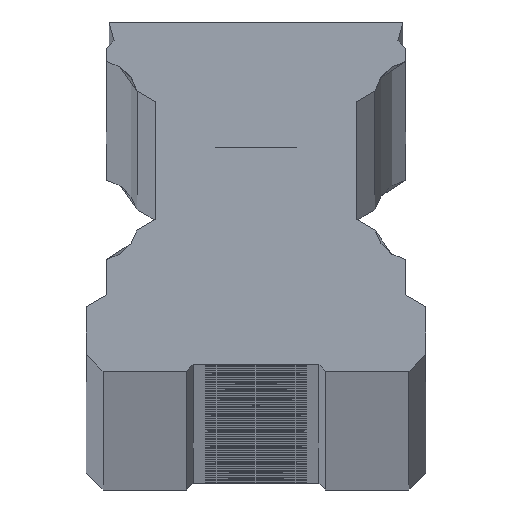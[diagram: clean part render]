
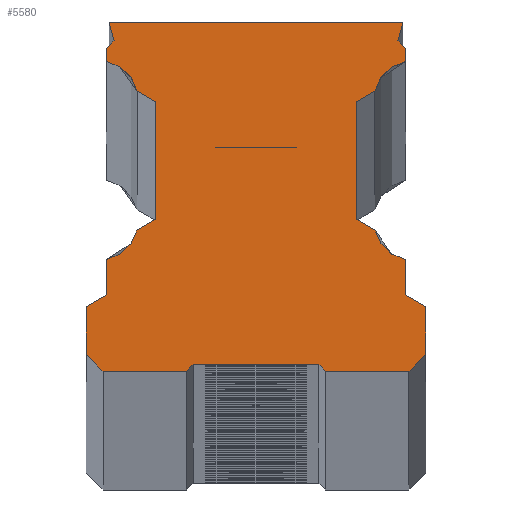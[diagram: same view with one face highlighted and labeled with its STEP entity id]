
A CAD part, top view. The second image highlights one B-rep face of the part: STEP entity #5580.
In plain terms, the highlighted free-form (B-spline) face has degree [1, 1] with [2, 2] control points.
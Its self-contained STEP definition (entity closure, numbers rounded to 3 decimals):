
#121=DIRECTION('',(-0.707,0.707,0.));
#122=VECTOR('',#121,1.414);
#123=CARTESIAN_POINT('',(-9.,0.,2000.));
#124=LINE('',#123,#122);
#145=CARTESIAN_POINT('',(-9.242,8.842,2000.));
#146=DIRECTION('',(0.,0.,-1.));
#147=DIRECTION('',(0.974,-0.226,0.));
#148=AXIS2_PLACEMENT_3D('',#145,#146,#147);
#155=DIRECTION('',(-0.707,-0.707,0.));
#156=VECTOR('',#155,0.566);
#157=CARTESIAN_POINT('',(-3.7,0.4,2000.));
#158=LINE('',#157,#156);
#159=DIRECTION('',(1.,0.,0.));
#160=VECTOR('',#159,4.9);
#161=CARTESIAN_POINT('',(-9.,0.,2000.));
#162=LINE('',#161,#160);
#163=DIRECTION('',(0.,-1.,0.));
#164=VECTOR('',#163,2.807);
#165=CARTESIAN_POINT('',(-10.,3.807,2000.));
#166=LINE('',#165,#164);
#167=DIRECTION('',(0.866,0.5,0.));
#168=VECTOR('',#167,1.386);
#169=CARTESIAN_POINT('',(-10.,3.807,2000.));
#170=LINE('',#169,#168);
#171=DIRECTION('',(0.,-1.,0.));
#172=VECTOR('',#171,2.075);
#173=CARTESIAN_POINT('',(-8.8,6.575,2000.));
#174=LINE('',#173,#172);
#175=DIRECTION('',(0.866,0.5,0.));
#176=VECTOR('',#175,1.261);
#177=CARTESIAN_POINT('',(-6.992,8.32,2000.));
#178=LINE('',#177,#176);
#179=DIRECTION('',(0.,1.,0.));
#180=VECTOR('',#179,6.9);
#181=CARTESIAN_POINT('',(-5.9,8.95,2000.));
#182=LINE('',#181,#180);
#183=DIRECTION('',(-0.866,0.5,0.));
#184=VECTOR('',#183,1.261);
#185=CARTESIAN_POINT('',(-5.9,15.85,2000.));
#186=LINE('',#185,#184);
#187=DIRECTION('',(0.,-1.,0.));
#188=VECTOR('',#187,0.766);
#189=CARTESIAN_POINT('',(-8.8,18.99,2000.));
#190=LINE('',#189,#188);
#191=DIRECTION('',(0.707,0.707,0.));
#192=VECTOR('',#191,0.636);
#193=CARTESIAN_POINT('',(-8.8,18.99,2000.));
#194=LINE('',#193,#192);
#195=DIRECTION('',(-0.259,0.966,0.));
#196=VECTOR('',#195,1.149);
#197=CARTESIAN_POINT('',(-8.35,19.44,2000.));
#198=LINE('',#197,#196);
#199=DIRECTION('',(-1.,0.,0.));
#200=VECTOR('',#199,17.295);
#201=CARTESIAN_POINT('',(8.647,20.55,2000.));
#202=LINE('',#201,#200);
#203=DIRECTION('',(-0.259,-0.966,0.));
#204=VECTOR('',#203,1.149);
#205=CARTESIAN_POINT('',(8.647,20.55,2000.));
#206=LINE('',#205,#204);
#207=DIRECTION('',(0.707,-0.707,0.));
#208=VECTOR('',#207,0.636);
#209=CARTESIAN_POINT('',(8.35,19.44,2000.));
#210=LINE('',#209,#208);
#211=DIRECTION('',(0.,-1.,0.));
#212=VECTOR('',#211,0.766);
#213=CARTESIAN_POINT('',(8.8,18.99,2000.));
#214=LINE('',#213,#212);
#215=DIRECTION('',(-0.866,-0.5,0.));
#216=VECTOR('',#215,1.261);
#217=CARTESIAN_POINT('',(6.992,16.481,2000.));
#218=LINE('',#217,#216);
#219=DIRECTION('',(0.,-1.,0.));
#220=VECTOR('',#219,6.9);
#221=CARTESIAN_POINT('',(5.9,15.85,2000.));
#222=LINE('',#221,#220);
#223=DIRECTION('',(0.866,-0.5,0.));
#224=VECTOR('',#223,1.261);
#225=CARTESIAN_POINT('',(5.9,8.95,2000.));
#226=LINE('',#225,#224);
#227=DIRECTION('',(0.,-1.,0.));
#228=VECTOR('',#227,2.075);
#229=CARTESIAN_POINT('',(8.8,6.575,2000.));
#230=LINE('',#229,#228);
#231=DIRECTION('',(0.866,-0.5,0.));
#232=VECTOR('',#231,1.386);
#233=CARTESIAN_POINT('',(8.8,4.5,2000.));
#234=LINE('',#233,#232);
#235=DIRECTION('',(0.,1.,0.));
#236=VECTOR('',#235,2.807);
#237=CARTESIAN_POINT('',(10.,1.,2000.));
#238=LINE('',#237,#236);
#239=DIRECTION('',(1.,0.,0.));
#240=VECTOR('',#239,4.9);
#241=CARTESIAN_POINT('',(4.1,0.,2000.));
#242=LINE('',#241,#240);
#243=DIRECTION('',(-0.707,0.707,0.));
#244=VECTOR('',#243,0.566);
#245=CARTESIAN_POINT('',(4.1,0.,2000.));
#246=LINE('',#245,#244);
#247=DIRECTION('',(-1.,0.,0.));
#248=VECTOR('',#247,7.4);
#249=CARTESIAN_POINT('',(3.7,0.4,2000.));
#250=LINE('',#249,#248);
#267=CARTESIAN_POINT('',(-9.242,15.957,2000.));
#268=DIRECTION('',(0.,0.,-1.));
#269=DIRECTION('',(0.191,0.982,0.));
#270=AXIS2_PLACEMENT_3D('',#267,#268,#269);
#980=CARTESIAN_POINT('',(9.242,8.842,2000.));
#981=DIRECTION('',(0.,0.,-1.));
#982=DIRECTION('',(-0.191,-0.982,0.));
#983=AXIS2_PLACEMENT_3D('',#980,#981,#982);
#1001=CARTESIAN_POINT('',(9.242,15.957,2000.));
#1002=DIRECTION('',(0.,0.,-1.));
#1003=DIRECTION('',(-0.974,0.227,0.));
#1004=AXIS2_PLACEMENT_3D('',#1001,#1002,#1003);
#1031=DIRECTION('',(-0.707,-0.707,0.));
#1032=VECTOR('',#1031,1.414);
#1033=CARTESIAN_POINT('',(10.,1.,2000.));
#1034=LINE('',#1033,#1032);
#4129=CARTESIAN_POINT('',(8.8,4.5,2000.));
#4130=CARTESIAN_POINT('',(10.,3.807,2000.));
#4131=VERTEX_POINT('',#4129);
#4132=VERTEX_POINT('',#4130);
#4133=CARTESIAN_POINT('',(-10.,3.807,2000.));
#4134=CARTESIAN_POINT('',(-8.8,4.5,2000.));
#4135=VERTEX_POINT('',#4133);
#4136=VERTEX_POINT('',#4134);
#4138=CARTESIAN_POINT('',(8.8,18.224,2000.));
#4140=VERTEX_POINT('',#4138);
#4142=CARTESIAN_POINT('',(8.8,6.575,2000.));
#4144=VERTEX_POINT('',#4142);
#4146=CARTESIAN_POINT('',(-8.8,18.224,2000.));
#4148=VERTEX_POINT('',#4146);
#4150=CARTESIAN_POINT('',(-8.8,6.575,2000.));
#4152=VERTEX_POINT('',#4150);
#4161=CARTESIAN_POINT('',(5.9,15.85,2000.));
#4162=CARTESIAN_POINT('',(5.9,8.95,2000.));
#4163=VERTEX_POINT('',#4161);
#4164=VERTEX_POINT('',#4162);
#4165=CARTESIAN_POINT('',(6.992,8.32,2000.));
#4166=VERTEX_POINT('',#4165);
#4167=CARTESIAN_POINT('',(6.992,16.481,2000.));
#4168=VERTEX_POINT('',#4167);
#4169=CARTESIAN_POINT('',(-6.992,16.481,2000.));
#4170=VERTEX_POINT('',#4169);
#4173=CARTESIAN_POINT('',(-6.992,8.32,2000.));
#4174=VERTEX_POINT('',#4173);
#4189=CARTESIAN_POINT('',(8.647,20.55,2000.));
#4190=CARTESIAN_POINT('',(8.35,19.44,2000.));
#4191=VERTEX_POINT('',#4189);
#4192=VERTEX_POINT('',#4190);
#4193=CARTESIAN_POINT('',(8.8,18.99,2000.));
#4194=VERTEX_POINT('',#4193);
#4195=CARTESIAN_POINT('',(-8.8,18.99,2000.));
#4196=CARTESIAN_POINT('',(-8.35,19.44,2000.));
#4197=VERTEX_POINT('',#4195);
#4198=VERTEX_POINT('',#4196);
#4199=CARTESIAN_POINT('',(-8.647,20.55,2000.));
#4200=VERTEX_POINT('',#4199);
#4202=CARTESIAN_POINT('',(10.,1.,2000.));
#4204=VERTEX_POINT('',#4202);
#4206=CARTESIAN_POINT('',(9.,0.,2000.));
#4208=VERTEX_POINT('',#4206);
#4210=CARTESIAN_POINT('',(-9.,0.,2000.));
#4212=VERTEX_POINT('',#4210);
#4214=CARTESIAN_POINT('',(-10.,1.,2000.));
#4216=VERTEX_POINT('',#4214);
#4225=CARTESIAN_POINT('',(-3.7,0.4,2000.));
#4226=CARTESIAN_POINT('',(-4.1,0.,2000.));
#4227=VERTEX_POINT('',#4225);
#4228=VERTEX_POINT('',#4226);
#4229=CARTESIAN_POINT('',(4.1,0.,2000.));
#4230=CARTESIAN_POINT('',(3.7,0.4,2000.));
#4231=VERTEX_POINT('',#4229);
#4232=VERTEX_POINT('',#4230);
#4301=CARTESIAN_POINT('',(-5.9,8.95,2000.));
#4302=VERTEX_POINT('',#4301);
#4303=CARTESIAN_POINT('',(-5.9,15.85,2000.));
#4304=VERTEX_POINT('',#4303);
#5522=CARTESIAN_POINT('',(-10.4,-0.411,2000.));
#5523=CARTESIAN_POINT('',(-10.4,20.961,2000.));
#5524=CARTESIAN_POINT('',(10.4,-0.411,2000.));
#5525=CARTESIAN_POINT('',(10.4,20.961,2000.));
#5526=B_SPLINE_SURFACE_WITH_KNOTS('',1,1,((#5522,#5523),(#5524,#5525)),
.UNSPECIFIED.,.F.,.F.,.F.,(2,2),(2,2),(-10.4,10.4),(-12.811,8.561),
.UNSPECIFIED.);
#5527=ORIENTED_EDGE('',*,*,#5389,.T.);
#5528=ORIENTED_EDGE('',*,*,#5405,.F.);
#5529=ORIENTED_EDGE('',*,*,#5434,.T.);
#5530=ORIENTED_EDGE('',*,*,#5446,.F.);
#5531=ORIENTED_EDGE('',*,*,#5461,.T.);
#5532=ORIENTED_EDGE('',*,*,#5474,.F.);
#5533=ORIENTED_EDGE('',*,*,#5513,.F.);
#5535=ORIENTED_EDGE('',*,*,#5534,.T.);
#5537=ORIENTED_EDGE('',*,*,#5536,.T.);
#5539=ORIENTED_EDGE('',*,*,#5538,.T.);
#5541=ORIENTED_EDGE('',*,*,#5540,.F.);
#5542=ORIENTED_EDGE('',*,*,#5488,.F.);
#5544=ORIENTED_EDGE('',*,*,#5543,.T.);
#5546=ORIENTED_EDGE('',*,*,#5545,.T.);
#5548=ORIENTED_EDGE('',*,*,#5547,.F.);
#5550=ORIENTED_EDGE('',*,*,#5549,.T.);
#5552=ORIENTED_EDGE('',*,*,#5551,.T.);
#5554=ORIENTED_EDGE('',*,*,#5553,.T.);
#5556=ORIENTED_EDGE('',*,*,#5555,.F.);
#5558=ORIENTED_EDGE('',*,*,#5557,.T.);
#5560=ORIENTED_EDGE('',*,*,#5559,.T.);
#5562=ORIENTED_EDGE('',*,*,#5561,.T.);
#5564=ORIENTED_EDGE('',*,*,#5563,.F.);
#5566=ORIENTED_EDGE('',*,*,#5565,.T.);
#5568=ORIENTED_EDGE('',*,*,#5567,.T.);
#5570=ORIENTED_EDGE('',*,*,#5569,.F.);
#5572=ORIENTED_EDGE('',*,*,#5571,.T.);
#5573=ORIENTED_EDGE('',*,*,#5417,.F.);
#5575=ORIENTED_EDGE('',*,*,#5574,.T.);
#5577=ORIENTED_EDGE('',*,*,#5576,.T.);
#5578=EDGE_LOOP('',(#5527,#5528,#5529,#5530,#5531,#5532,#5533,#5535,#5537,#5539,
#5541,#5542,#5544,#5546,#5548,#5550,#5552,#5554,#5556,#5558,#5560,#5562,#5564,
#5566,#5568,#5570,#5572,#5573,#5575,#5577));
#5579=FACE_OUTER_BOUND('',#5578,.F.);
#5580=ADVANCED_FACE('',(#5579),#5526,.T.);
#149=CIRCLE('',#148,2.31);
#271=CIRCLE('',#270,2.31);
#984=CIRCLE('',#983,2.31);
#1005=CIRCLE('',#1004,2.31);
#5389=EDGE_CURVE('',#4227,#4228,#158,.T.);
#5405=EDGE_CURVE('',#4212,#4228,#162,.T.);
#5417=EDGE_CURVE('',#4231,#4208,#242,.T.);
#5434=EDGE_CURVE('',#4212,#4216,#124,.T.);
#5446=EDGE_CURVE('',#4135,#4216,#166,.T.);
#5461=EDGE_CURVE('',#4135,#4136,#170,.T.);
#5474=EDGE_CURVE('',#4152,#4136,#174,.T.);
#5488=EDGE_CURVE('',#4197,#4148,#190,.T.);
#5513=EDGE_CURVE('',#4174,#4152,#149,.T.);
#5534=EDGE_CURVE('',#4174,#4302,#178,.T.);
#5536=EDGE_CURVE('',#4302,#4304,#182,.T.);
#5538=EDGE_CURVE('',#4304,#4170,#186,.T.);
#5540=EDGE_CURVE('',#4148,#4170,#271,.T.);
#5543=EDGE_CURVE('',#4197,#4198,#194,.T.);
#5545=EDGE_CURVE('',#4198,#4200,#198,.T.);
#5547=EDGE_CURVE('',#4191,#4200,#202,.T.);
#5549=EDGE_CURVE('',#4191,#4192,#206,.T.);
#5551=EDGE_CURVE('',#4192,#4194,#210,.T.);
#5553=EDGE_CURVE('',#4194,#4140,#214,.T.);
#5555=EDGE_CURVE('',#4168,#4140,#1005,.T.);
#5557=EDGE_CURVE('',#4168,#4163,#218,.T.);
#5559=EDGE_CURVE('',#4163,#4164,#222,.T.);
#5561=EDGE_CURVE('',#4164,#4166,#226,.T.);
#5563=EDGE_CURVE('',#4144,#4166,#984,.T.);
#5565=EDGE_CURVE('',#4144,#4131,#230,.T.);
#5567=EDGE_CURVE('',#4131,#4132,#234,.T.);
#5569=EDGE_CURVE('',#4204,#4132,#238,.T.);
#5571=EDGE_CURVE('',#4204,#4208,#1034,.T.);
#5574=EDGE_CURVE('',#4231,#4232,#246,.T.);
#5576=EDGE_CURVE('',#4232,#4227,#250,.T.);
